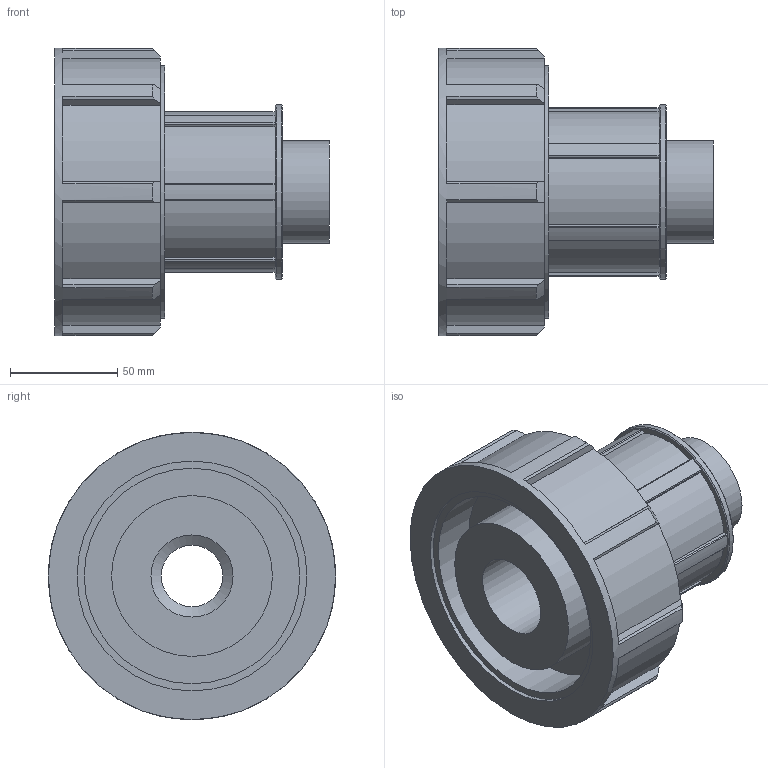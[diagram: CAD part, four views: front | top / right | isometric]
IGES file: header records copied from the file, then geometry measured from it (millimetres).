
Global section: file name: 0725060750150A.ipt; native system: Autodesk Inventor 2015; preprocessor: unknown; author: KIM; date: 20170608.042216; units: millimetre
Bounding box: 128 x 134 x 134 mm (x, y, z)
Volume: 680282.2 mm3; surface area: 108099.8 mm2
Topology: 1 solids, 1 shells, 115 faces, 322 edges, 217 vertices
Faces by surface type: plane 74, cylinder 25, cone 10, revolution 6
Full cylindrical faces by diameter (mm): 47.803 x1, 75 x1, 81.265 x1, 117.92 x1, 134 x1
